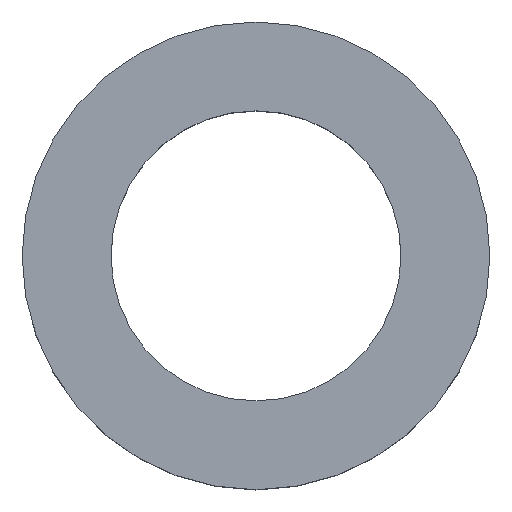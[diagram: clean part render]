
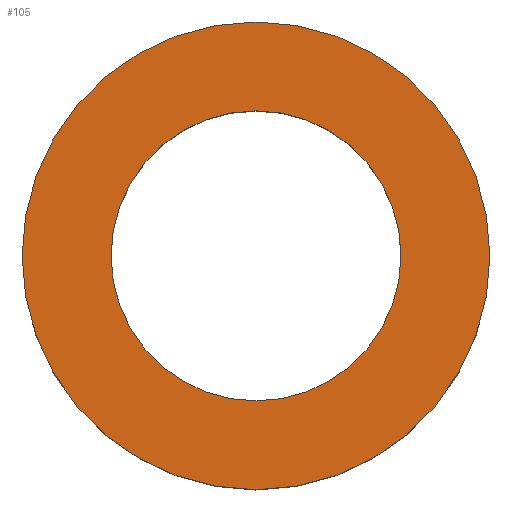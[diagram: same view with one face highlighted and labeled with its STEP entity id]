
A CAD part, top view. The second image highlights one B-rep face of the part: STEP entity #105.
In plain terms, the highlighted planar face has unit normal (0, 0, 1).
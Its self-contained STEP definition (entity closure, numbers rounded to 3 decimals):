
#21 = EDGE_CURVE('',#22,#22,#24,.T.);
#22 = VERTEX_POINT('',#23);
#23 = CARTESIAN_POINT('',(5.,0.,3.2));
#24 = SURFACE_CURVE('',#25,(#30,#42),.PCURVE_S1.);
#25 = CIRCLE('',#26,5.);
#26 = AXIS2_PLACEMENT_3D('',#27,#28,#29);
#27 = CARTESIAN_POINT('',(0.,0.,3.2));
#28 = DIRECTION('',(0.,0.,1.));
#29 = DIRECTION('',(1.,0.,-0.));
#30 = PCURVE('',#31,#36);
#31 = CYLINDRICAL_SURFACE('',#32,5.);
#32 = AXIS2_PLACEMENT_3D('',#33,#34,#35);
#33 = CARTESIAN_POINT('',(0.,0.,0.));
#34 = DIRECTION('',(0.,0.,1.));
#35 = DIRECTION('',(1.,0.,-0.));
#36 = DEFINITIONAL_REPRESENTATION('',(#37),#41);
#37 = LINE('',#38,#39);
#38 = CARTESIAN_POINT('',(0.,3.2));
#39 = VECTOR('',#40,1.);
#40 = DIRECTION('',(1.,0.));
#41 = ( GEOMETRIC_REPRESENTATION_CONTEXT(2) 
PARAMETRIC_REPRESENTATION_CONTEXT() REPRESENTATION_CONTEXT('2D SPACE',''
  ) );
#42 = PCURVE('',#43,#48);
#43 = PLANE('',#44);
#44 = AXIS2_PLACEMENT_3D('',#45,#46,#47);
#45 = CARTESIAN_POINT('',(0.,0.,3.2));
#46 = DIRECTION('',(0.,0.,1.));
#47 = DIRECTION('',(1.,0.,-0.));
#48 = DEFINITIONAL_REPRESENTATION('',(#49),#53);
#49 = CIRCLE('',#50,5.);
#50 = AXIS2_PLACEMENT_2D('',#51,#52);
#51 = CARTESIAN_POINT('',(0.,0.));
#52 = DIRECTION('',(1.,0.));
#53 = ( GEOMETRIC_REPRESENTATION_CONTEXT(2) 
PARAMETRIC_REPRESENTATION_CONTEXT() REPRESENTATION_CONTEXT('2D SPACE',''
  ) );
#105 = ADVANCED_FACE('',(#106,#109),#43,.T.);
#106 = FACE_BOUND('',#107,.T.);
#107 = EDGE_LOOP('',(#108));
#108 = ORIENTED_EDGE('',*,*,#21,.T.);
#109 = FACE_BOUND('',#110,.T.);
#110 = EDGE_LOOP('',(#111));
#111 = ORIENTED_EDGE('',*,*,#112,.F.);
#112 = EDGE_CURVE('',#113,#113,#115,.T.);
#113 = VERTEX_POINT('',#114);
#114 = CARTESIAN_POINT('',(3.1,0.,3.2));
#115 = SURFACE_CURVE('',#116,(#121,#128),.PCURVE_S1.);
#116 = CIRCLE('',#117,3.1);
#117 = AXIS2_PLACEMENT_3D('',#118,#119,#120);
#118 = CARTESIAN_POINT('',(0.,0.,3.2));
#119 = DIRECTION('',(0.,0.,1.));
#120 = DIRECTION('',(1.,0.,-0.));
#121 = PCURVE('',#43,#122);
#122 = DEFINITIONAL_REPRESENTATION('',(#123),#127);
#123 = CIRCLE('',#124,3.1);
#124 = AXIS2_PLACEMENT_2D('',#125,#126);
#125 = CARTESIAN_POINT('',(0.,0.));
#126 = DIRECTION('',(1.,0.));
#127 = ( GEOMETRIC_REPRESENTATION_CONTEXT(2) 
PARAMETRIC_REPRESENTATION_CONTEXT() REPRESENTATION_CONTEXT('2D SPACE',''
  ) );
#128 = PCURVE('',#129,#134);
#129 = CYLINDRICAL_SURFACE('',#130,3.1);
#130 = AXIS2_PLACEMENT_3D('',#131,#132,#133);
#131 = CARTESIAN_POINT('',(0.,0.,-0.1));
#132 = DIRECTION('',(0.,0.,1.));
#133 = DIRECTION('',(1.,0.,-0.));
#134 = DEFINITIONAL_REPRESENTATION('',(#135),#139);
#135 = LINE('',#136,#137);
#136 = CARTESIAN_POINT('',(0.,3.3));
#137 = VECTOR('',#138,1.);
#138 = DIRECTION('',(1.,0.));
#139 = ( GEOMETRIC_REPRESENTATION_CONTEXT(2) 
PARAMETRIC_REPRESENTATION_CONTEXT() REPRESENTATION_CONTEXT('2D SPACE',''
  ) );
